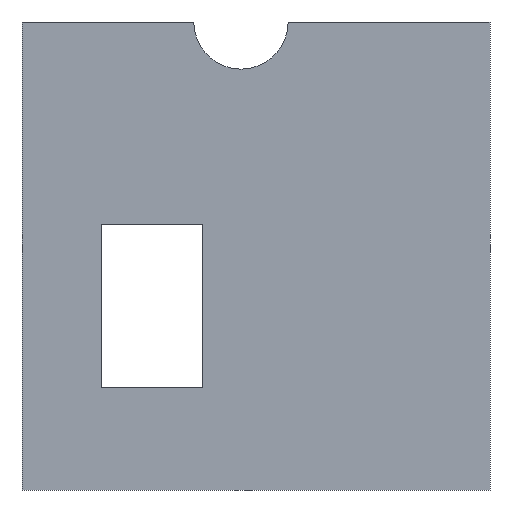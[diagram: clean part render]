
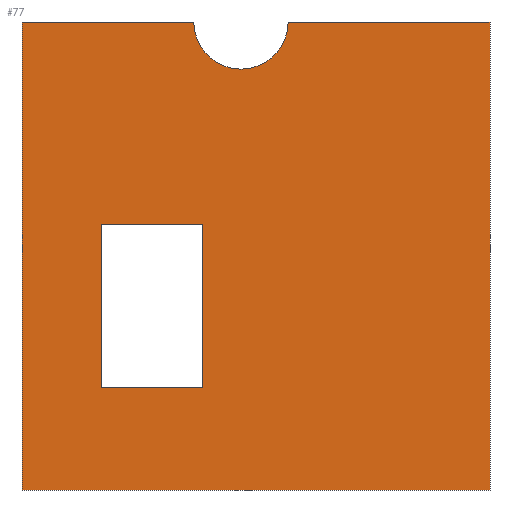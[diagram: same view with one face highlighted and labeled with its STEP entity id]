
A CAD part, front view. The second image highlights one B-rep face of the part: STEP entity #77.
In plain terms, the highlighted planar face has unit normal (0, -1, 0).
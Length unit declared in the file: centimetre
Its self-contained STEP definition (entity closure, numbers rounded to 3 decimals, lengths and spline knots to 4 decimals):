
#21 = CARTESIAN_POINT ( 'NONE',  ( 0., 0., 0. ) ) ;
#23 = LINE ( 'NONE', #239, #492 ) ;
#30 = EDGE_CURVE ( 'NONE', #461, #488, #202, .T. ) ;
#36 = VERTEX_POINT ( 'NONE', #170 ) ;
#38 = CARTESIAN_POINT ( 'NONE',  ( 1000., 0., 0. ) ) ;
#59 = CARTESIAN_POINT ( 'NONE',  ( 1000., 0., 1000. ) ) ;
#64 = VERTEX_POINT ( 'NONE', #217 ) ;
#72 = DIRECTION ( 'NONE',  ( 0., 0., -1. ) ) ;
#73 = PLANE ( 'NONE',  #424 ) ;
#77 = ADVANCED_FACE ( 'NONE', ( #423, #380 ), #73, .F. ) ;
#89 = EDGE_LOOP ( 'NONE', ( #279, #236, #128, #96 ) ) ;
#92 = VECTOR ( 'NONE', #483, 100. ) ;
#96 = ORIENTED_EDGE ( 'NONE', *, *, #274, .F. ) ;
#101 = ORIENTED_EDGE ( 'NONE', *, *, #30, .F. ) ;
#108 = CARTESIAN_POINT ( 'NONE',  ( 467.906, 0., 899.1948 ) ) ;
#115 = EDGE_CURVE ( 'NONE', #189, #485, #214, .T. ) ;
#124 = CARTESIAN_POINT ( 'NONE',  ( 0., 0., 1000. ) ) ;
#128 = ORIENTED_EDGE ( 'NONE', *, *, #329, .F. ) ;
#136 = LINE ( 'NONE', #313, #501 ) ;
#139 = VERTEX_POINT ( 'NONE', #477 ) ;
#141 = DIRECTION ( 'NONE',  ( 1., 0., 0. ) ) ;
#148 = VERTEX_POINT ( 'NONE', #430 ) ;
#151 = CARTESIAN_POINT ( 'NONE',  ( 385.7518, 0., 217.9731 ) ) ;
#155 = CARTESIAN_POINT ( 'NONE',  ( 367.1008, 0., 1000. ) ) ;
#163 = DIRECTION ( 'NONE',  ( 0., -1., 0. ) ) ;
#166 = CIRCLE ( 'NONE', #240, 100.8052 ) ;
#170 = CARTESIAN_POINT ( 'NONE',  ( 168.8095, 0., 567.3441 ) ) ;
#184 = LINE ( 'NONE', #382, #542 ) ;
#186 = VECTOR ( 'NONE', #141, 100. ) ;
#188 = LINE ( 'NONE', #272, #186 ) ;
#189 = VERTEX_POINT ( 'NONE', #392 ) ;
#200 = VECTOR ( 'NONE', #72, 100. ) ;
#202 = CIRCLE ( 'NONE', #484, 100.8052 ) ;
#210 = EDGE_CURVE ( 'NONE', #355, #461, #136, .T. ) ;
#212 = EDGE_CURVE ( 'NONE', #355, #189, #184, .T. ) ;
#214 = LINE ( 'NONE', #21, #433 ) ;
#217 = CARTESIAN_POINT ( 'NONE',  ( 385.7518, 0., 567.3441 ) ) ;
#231 = ORIENTED_EDGE ( 'NONE', *, *, #210, .F. ) ;
#236 = ORIENTED_EDGE ( 'NONE', *, *, #474, .F. ) ;
#239 = CARTESIAN_POINT ( 'NONE',  ( 168.8095, 0., 567.3441 ) ) ;
#240 = AXIS2_PLACEMENT_3D ( 'NONE', #327, #324, #249 ) ;
#245 = DIRECTION ( 'NONE',  ( 0., 0., -1. ) ) ;
#249 = DIRECTION ( 'NONE',  ( 0., 0., -1. ) ) ;
#253 = LINE ( 'NONE', #300, #507 ) ;
#263 = CARTESIAN_POINT ( 'NONE',  ( 385.7518, 0., 217.9731 ) ) ;
#272 = CARTESIAN_POINT ( 'NONE',  ( 168.8095, 0., 217.9731 ) ) ;
#274 = EDGE_CURVE ( 'NONE', #446, #64, #527, .T. ) ;
#275 = CARTESIAN_POINT ( 'NONE',  ( 0., 0., 1000. ) ) ;
#279 = ORIENTED_EDGE ( 'NONE', *, *, #334, .F. ) ;
#286 = VECTOR ( 'NONE', #466, 100. ) ;
#300 = CARTESIAN_POINT ( 'NONE',  ( 1000., 0., 1000. ) ) ;
#309 = DIRECTION ( 'NONE',  ( 0., 0., -1. ) ) ;
#313 = CARTESIAN_POINT ( 'NONE',  ( 0., 0., 1000. ) ) ;
#315 = DIRECTION ( 'NONE',  ( -1., 0., 0. ) ) ;
#323 = ORIENTED_EDGE ( 'NONE', *, *, #352, .F. ) ;
#324 = DIRECTION ( 'NONE',  ( 0., -1., 0. ) ) ;
#327 = CARTESIAN_POINT ( 'NONE',  ( 467.906, 0., 1000. ) ) ;
#329 = EDGE_CURVE ( 'NONE', #64, #36, #23, .T. ) ;
#334 = EDGE_CURVE ( 'NONE', #148, #446, #188, .T. ) ;
#335 = DIRECTION ( 'NONE',  ( 0., 1., 0. ) ) ;
#348 = DIRECTION ( 'NONE',  ( 1., 0., 0. ) ) ;
#352 = EDGE_CURVE ( 'NONE', #139, #369, #481, .T. ) ;
#355 = VERTEX_POINT ( 'NONE', #440 ) ;
#359 = ORIENTED_EDGE ( 'NONE', *, *, #378, .F. ) ;
#369 = VERTEX_POINT ( 'NONE', #59 ) ;
#378 = EDGE_CURVE ( 'NONE', #488, #139, #166, .T. ) ;
#380 = FACE_OUTER_BOUND ( 'NONE', #505, .T. ) ;
#382 = CARTESIAN_POINT ( 'NONE',  ( 0., 0., 1000. ) ) ;
#384 = DIRECTION ( 'NONE',  ( 0., 0., 1. ) ) ;
#392 = CARTESIAN_POINT ( 'NONE',  ( 0., 0., 0. ) ) ;
#399 = DIRECTION ( 'NONE',  ( 1., 0., 0. ) ) ;
#423 = FACE_BOUND ( 'NONE', #89, .T. ) ;
#424 = AXIS2_PLACEMENT_3D ( 'NONE', #124, #335, #384 ) ;
#430 = CARTESIAN_POINT ( 'NONE',  ( 168.8095, 0., 217.9731 ) ) ;
#433 = VECTOR ( 'NONE', #348, 100. ) ;
#440 = CARTESIAN_POINT ( 'NONE',  ( 0., 0., 1000. ) ) ;
#446 = VERTEX_POINT ( 'NONE', #151 ) ;
#451 = CARTESIAN_POINT ( 'NONE',  ( 168.8095, 0., 217.9731 ) ) ;
#461 = VERTEX_POINT ( 'NONE', #155 ) ;
#466 = DIRECTION ( 'NONE',  ( 0., 0., 1. ) ) ;
#468 = ORIENTED_EDGE ( 'NONE', *, *, #212, .T. ) ;
#474 = EDGE_CURVE ( 'NONE', #36, #148, #540, .T. ) ;
#475 = ORIENTED_EDGE ( 'NONE', *, *, #536, .F. ) ;
#477 = CARTESIAN_POINT ( 'NONE',  ( 568.7112, 0., 1000. ) ) ;
#481 = LINE ( 'NONE', #275, #92 ) ;
#483 = DIRECTION ( 'NONE',  ( 1., 0., 0. ) ) ;
#484 = AXIS2_PLACEMENT_3D ( 'NONE', #506, #163, #245 ) ;
#485 = VERTEX_POINT ( 'NONE', #38 ) ;
#488 = VERTEX_POINT ( 'NONE', #108 ) ;
#492 = VECTOR ( 'NONE', #315, 100. ) ;
#501 = VECTOR ( 'NONE', #399, 100. ) ;
#505 = EDGE_LOOP ( 'NONE', ( #323, #359, #101, #231, #468, #535, #475 ) ) ;
#506 = CARTESIAN_POINT ( 'NONE',  ( 467.906, 0., 1000. ) ) ;
#507 = VECTOR ( 'NONE', #309, 100. ) ;
#509 = DIRECTION ( 'NONE',  ( 0., 0., -1. ) ) ;
#527 = LINE ( 'NONE', #263, #286 ) ;
#535 = ORIENTED_EDGE ( 'NONE', *, *, #115, .T. ) ;
#536 = EDGE_CURVE ( 'NONE', #369, #485, #253, .T. ) ;
#540 = LINE ( 'NONE', #451, #200 ) ;
#542 = VECTOR ( 'NONE', #509, 100. ) ;
